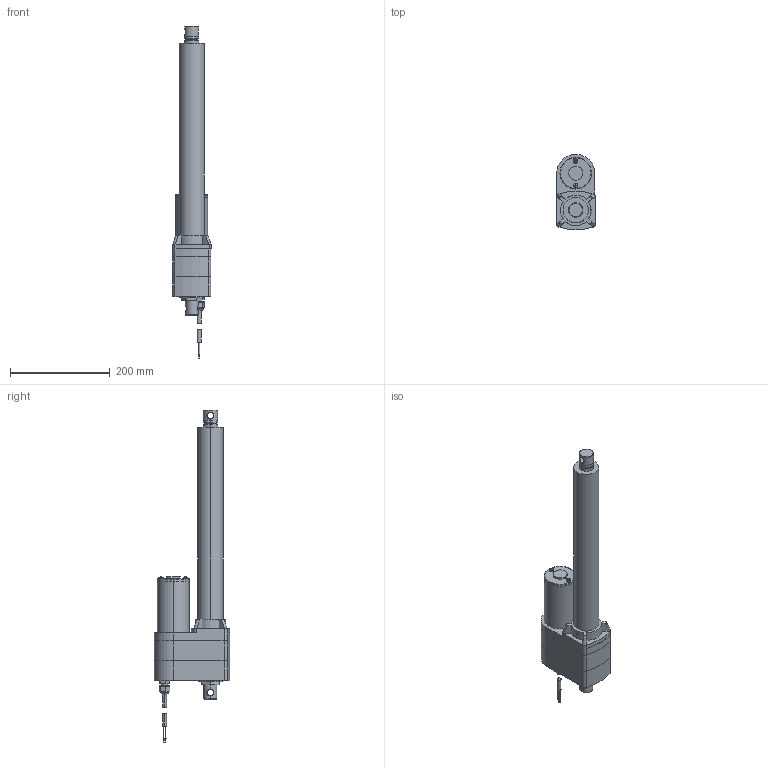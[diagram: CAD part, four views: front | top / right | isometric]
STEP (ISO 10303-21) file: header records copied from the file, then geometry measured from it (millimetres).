
FILE_DESCRIPTION (( 'STEP AP203' ), '1' );
FILE_NAME ('LA10_BALL_12.step', '2021-02-24T15:35:54', ( '' ), ( '' ), 'SwSTEP 2.0', 'SolidWorks 2017', '' );
FILE_SCHEMA (( 'CONFIG_CONTROL_DESIGN' ));
Length unit declared in the file: millimetre
Products named in the file (1): LA10_BALL_12
Bounding box: 77.22 x 151.29 x 666.45 mm (x, y, z)
Volume: 2319161.9 mm3; surface area: 224502.2 mm2
Topology: 14 solids, 14 shells, 327 faces, 704 edges, 436 vertices
Faces by surface type: plane 156, cylinder 103, cone 24, bspline 22, torus 18, sphere 4
Entity records: 10888 total; most frequent: CARTESIAN_POINT 3656, DIRECTION 1547, ORIENTED_EDGE 1408, EDGE_CURVE 704, AXIS2_PLACEMENT_3D 607, VERTEX_POINT 436, EDGE_LOOP 366, LINE 333
